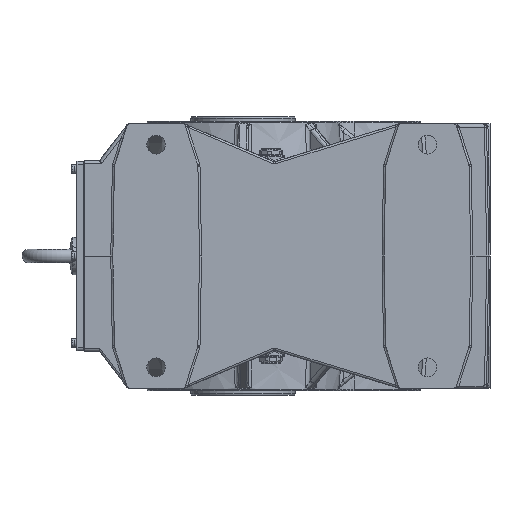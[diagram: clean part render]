
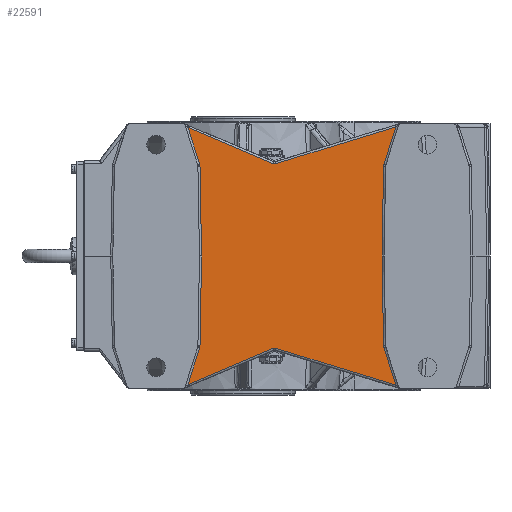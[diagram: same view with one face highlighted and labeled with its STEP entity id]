
A CAD part, left-side view. The second image highlights one B-rep face of the part: STEP entity #22591.
In plain terms, the highlighted planar face has unit normal (-1, 0, 0).
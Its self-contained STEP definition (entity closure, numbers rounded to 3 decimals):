
#14108=CARTESIAN_POINT('',(-225.0,79.172,-184.692));
#14109=VERTEX_POINT('',#14108);
#14117=CARTESIAN_POINT('',(-225.0,62.36,-131.6));
#14118=VERTEX_POINT('',#14117);
#14119=CARTESIAN_POINT('',(-225.0,79.172,-184.692));
#14120=DIRECTION('',(0.0,-0.302,0.953));
#14121=VECTOR('',#14120,55.69);
#14122=LINE('',#14119,#14121);
#14123=EDGE_CURVE('',#14109,#14118,#14122,.T.);
#20254=CARTESIAN_POINT('',(-225.,-42.78,-132.926));
#20255=VERTEX_POINT('',#20254);
#20263=CARTESIAN_POINT('',(-225.,-42.78,-132.926));
#20264=DIRECTION('',(0.,0.921,-0.391));
#20265=VECTOR('',#20264,132.484);
#20266=LINE('',#20263,#20265);
#20267=EDGE_CURVE('',#20255,#14109,#20266,.T.);
#20279=CARTESIAN_POINT('',(-225.,-46.878,-132.711));
#20280=VERTEX_POINT('',#20279);
#20288=CARTESIAN_POINT('',(-225.,-45.124,-138.449));
#20289=DIRECTION('',(-1.0,0.,0.));
#20290=DIRECTION('',(0.,0.052,0.999));
#20291=AXIS2_PLACEMENT_3D('',#20288,#20289,#20290);
#20292=CIRCLE('',#20291,6.);
#20293=EDGE_CURVE('',#20280,#20255,#20292,.T.);
#20313=CARTESIAN_POINT('',(-225.,-219.416,-185.461));
#20314=VERTEX_POINT('',#20313);
#20322=CARTESIAN_POINT('',(-225.,-219.416,-185.461));
#20323=DIRECTION('',(0.,0.956,0.292));
#20324=VECTOR('',#20323,180.421);
#20325=LINE('',#20322,#20324);
#20326=EDGE_CURVE('',#20314,#20280,#20325,.T.);
#21481=CARTESIAN_POINT('',(-225.,-202.36,-131.6));
#21482=VERTEX_POINT('',#21481);
#21490=CARTESIAN_POINT('',(-225.,-202.36,-131.6));
#21491=DIRECTION('',(0.0,-0.302,-0.953));
#21492=VECTOR('',#21491,56.498);
#21493=LINE('',#21490,#21492);
#21494=EDGE_CURVE('',#21482,#20314,#21493,.T.);
#22223=CARTESIAN_POINT('',(-225.0,79.172,184.692));
#22224=VERTEX_POINT('',#22223);
#22232=CARTESIAN_POINT('',(-225.,-42.78,132.926));
#22233=VERTEX_POINT('',#22232);
#22234=CARTESIAN_POINT('',(-225.0,79.172,184.692));
#22235=DIRECTION('',(0.,-0.921,-0.391));
#22236=VECTOR('',#22235,132.484);
#22237=LINE('',#22234,#22236);
#22238=EDGE_CURVE('',#22224,#22233,#22237,.T.);
#22295=CARTESIAN_POINT('',(-225.,-46.878,132.711));
#22296=VERTEX_POINT('',#22295);
#22314=CARTESIAN_POINT('',(-225.,-45.124,138.449));
#22315=DIRECTION('',(-1.0,0.,0.));
#22316=DIRECTION('',(0.,0.052,-0.999));
#22317=AXIS2_PLACEMENT_3D('',#22314,#22315,#22316);
#22318=CIRCLE('',#22317,6.);
#22319=EDGE_CURVE('',#22233,#22296,#22318,.T.);
#22329=CARTESIAN_POINT('',(-225.,-219.416,185.461));
#22330=VERTEX_POINT('',#22329);
#22347=CARTESIAN_POINT('',(-225.,-46.878,132.711));
#22348=DIRECTION('',(0.,-0.956,0.292));
#22349=VECTOR('',#22348,180.421);
#22350=LINE('',#22347,#22349);
#22351=EDGE_CURVE('',#22296,#22330,#22350,.T.);
#22496=CARTESIAN_POINT('',(-225.,-350.0,0.0));
#22497=DIRECTION('',(-1.0,0.0,0.0));
#22498=DIRECTION('',(0.0,0.0,1.0));
#22499=AXIS2_PLACEMENT_3D('',#22496,#22497,#22498);
#22500=PLANE('',#22499);
#22501=ORIENTED_EDGE('',*,*,#20326,.F.);
#22502=ORIENTED_EDGE('',*,*,#21494,.F.);
#22503=CARTESIAN_POINT('',(-225.,-201.988,-129.324));
#22504=VERTEX_POINT('',#22503);
#22505=CARTESIAN_POINT('',(-225.,-209.987,-129.185));
#22506=DIRECTION('',(-1.0,0.,0.));
#22507=DIRECTION('',(0.,0.987,-0.161));
#22508=AXIS2_PLACEMENT_3D('',#22505,#22506,#22507);
#22509=CIRCLE('',#22508,8.);
#22510=EDGE_CURVE('',#22504,#21482,#22509,.T.);
#22511=ORIENTED_EDGE('',*,*,#22510,.F.);
#22512=CARTESIAN_POINT('',(-225.,-199.73,0.));
#22513=VERTEX_POINT('',#22512);
#22514=CARTESIAN_POINT('',(-225.,-199.73,0.));
#22515=DIRECTION('',(0.0,-0.017,-1.));
#22516=VECTOR('',#22515,129.344);
#22517=LINE('',#22514,#22516);
#22518=EDGE_CURVE('',#22513,#22504,#22517,.T.);
#22519=ORIENTED_EDGE('',*,*,#22518,.F.);
#22520=CARTESIAN_POINT('',(-225.,-201.988,129.324));
#22521=VERTEX_POINT('',#22520);
#22522=CARTESIAN_POINT('',(-225.,-201.988,129.324));
#22523=DIRECTION('',(0.0,0.017,-1.));
#22524=VECTOR('',#22523,129.344);
#22525=LINE('',#22522,#22524);
#22526=EDGE_CURVE('',#22521,#22513,#22525,.T.);
#22527=ORIENTED_EDGE('',*,*,#22526,.F.);
#22528=CARTESIAN_POINT('',(-225.,-202.36,131.6));
#22529=VERTEX_POINT('',#22528);
#22530=CARTESIAN_POINT('',(-225.,-209.987,129.185));
#22531=DIRECTION('',(-1.0,0.,0.));
#22532=DIRECTION('',(0.,0.987,0.161));
#22533=AXIS2_PLACEMENT_3D('',#22530,#22531,#22532);
#22534=CIRCLE('',#22533,8.);
#22535=EDGE_CURVE('',#22529,#22521,#22534,.T.);
#22536=ORIENTED_EDGE('',*,*,#22535,.F.);
#22537=CARTESIAN_POINT('',(-225.,-219.416,185.461));
#22538=DIRECTION('',(0.0,0.302,-0.953));
#22539=VECTOR('',#22538,56.498);
#22540=LINE('',#22537,#22539);
#22541=EDGE_CURVE('',#22330,#22529,#22540,.T.);
#22542=ORIENTED_EDGE('',*,*,#22541,.F.);
#22543=ORIENTED_EDGE('',*,*,#22351,.F.);
#22544=ORIENTED_EDGE('',*,*,#22319,.F.);
#22545=ORIENTED_EDGE('',*,*,#22238,.F.);
#22546=CARTESIAN_POINT('',(-225.0,62.36,131.6));
#22547=VERTEX_POINT('',#22546);
#22548=CARTESIAN_POINT('',(-225.0,62.36,131.6));
#22549=DIRECTION('',(0.0,0.302,0.953));
#22550=VECTOR('',#22549,55.69);
#22551=LINE('',#22548,#22550);
#22552=EDGE_CURVE('',#22547,#22224,#22551,.T.);
#22553=ORIENTED_EDGE('',*,*,#22552,.F.);
#22554=CARTESIAN_POINT('',(-225.0,61.988,129.324));
#22555=VERTEX_POINT('',#22554);
#22556=CARTESIAN_POINT('',(-225.0,69.987,129.185));
#22557=DIRECTION('',(-1.0,0.,0.));
#22558=DIRECTION('',(0.,-0.987,0.161));
#22559=AXIS2_PLACEMENT_3D('',#22556,#22557,#22558);
#22560=CIRCLE('',#22559,8.0);
#22561=EDGE_CURVE('',#22555,#22547,#22560,.T.);
#22562=ORIENTED_EDGE('',*,*,#22561,.F.);
#22563=CARTESIAN_POINT('',(-225.0,59.73,0.));
#22564=VERTEX_POINT('',#22563);
#22565=CARTESIAN_POINT('',(-225.0,59.73,0.));
#22566=DIRECTION('',(0.0,0.017,1.));
#22567=VECTOR('',#22566,129.344);
#22568=LINE('',#22565,#22567);
#22569=EDGE_CURVE('',#22564,#22555,#22568,.T.);
#22570=ORIENTED_EDGE('',*,*,#22569,.F.);
#22571=CARTESIAN_POINT('',(-225.0,61.988,-129.324));
#22572=VERTEX_POINT('',#22571);
#22573=CARTESIAN_POINT('',(-225.0,61.988,-129.324));
#22574=DIRECTION('',(0.0,-0.017,1.));
#22575=VECTOR('',#22574,129.344);
#22576=LINE('',#22573,#22575);
#22577=EDGE_CURVE('',#22572,#22564,#22576,.T.);
#22578=ORIENTED_EDGE('',*,*,#22577,.F.);
#22579=CARTESIAN_POINT('',(-225.0,69.987,-129.185));
#22580=DIRECTION('',(-1.0,0.,0.));
#22581=DIRECTION('',(0.,-0.987,-0.161));
#22582=AXIS2_PLACEMENT_3D('',#22579,#22580,#22581);
#22583=CIRCLE('',#22582,8.0);
#22584=EDGE_CURVE('',#14118,#22572,#22583,.T.);
#22585=ORIENTED_EDGE('',*,*,#22584,.F.);
#22586=ORIENTED_EDGE('',*,*,#14123,.F.);
#22587=ORIENTED_EDGE('',*,*,#20267,.F.);
#22588=ORIENTED_EDGE('',*,*,#20293,.F.);
#22589=EDGE_LOOP('',(#22501,#22502,#22511,#22519,#22527,#22536,#22542,#22543,#22544,#22545,#22553,#22562,#22570,#22578,#22585,#22586,#22587,#22588));
#22590=FACE_OUTER_BOUND('',#22589,.T.);
#22591=ADVANCED_FACE('',(#22590),#22500,.T.);
